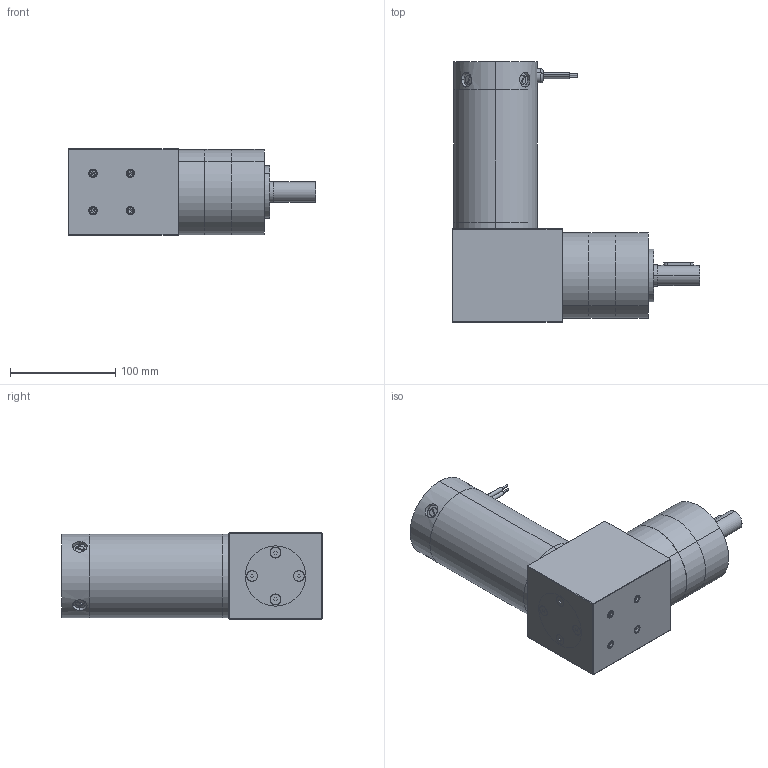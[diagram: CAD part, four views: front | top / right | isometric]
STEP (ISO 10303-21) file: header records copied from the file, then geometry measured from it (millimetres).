
FILE_DESCRIPTION (( 'STEP AP203' ), '1' );
FILE_NAME ('d33655bgra2.step', '2018-12-07T19:43:30', ( '' ), ( '' ), 'SwSTEP 2.0', 'SolidWorks 2017', '' );
FILE_SCHEMA (( 'CONFIG_CONTROL_DESIGN' ));
Length unit declared in the file: inch
Products named in the file (1): d33655bgra2
Bounding box: 235.03 x 247.4 x 82.55 mm (x, y, z)
Volume: 1987787.2 mm3; surface area: 218180.2 mm2
Topology: 27 solids, 27 shells, 1104 faces, 2791 edges, 1790 vertices
Faces by surface type: cylinder 691, plane 294, cone 93, torus 14, bspline 8, sphere 4
Entity records: 52497 total; most frequent: CARTESIAN_POINT 28556, ORIENTED_EDGE 5534, DIRECTION 4484, EDGE_CURVE 2767, VERTEX_POINT 1790, AXIS2_PLACEMENT_3D 1650, EDGE_LOOP 1209, VECTOR 1184
